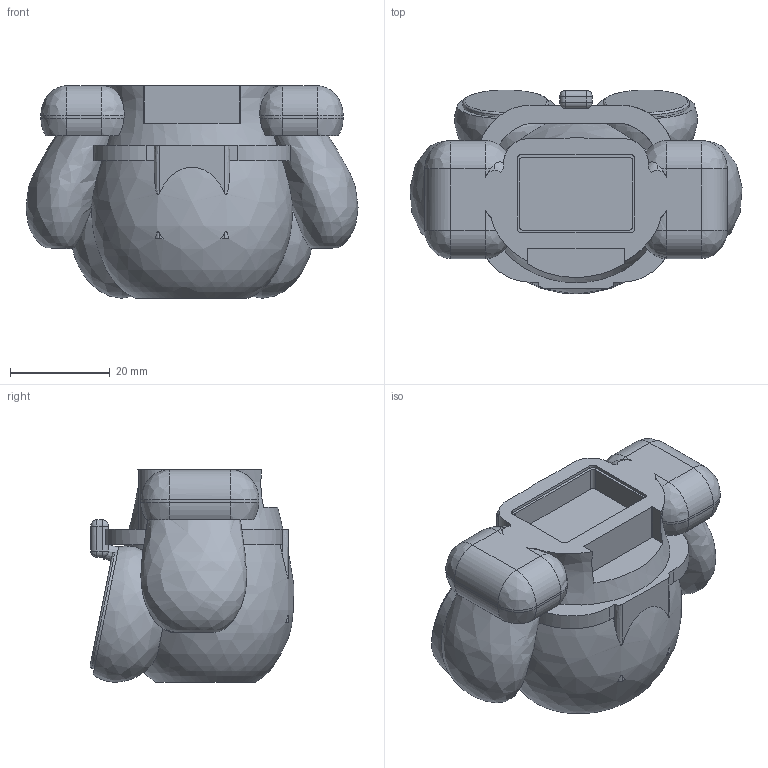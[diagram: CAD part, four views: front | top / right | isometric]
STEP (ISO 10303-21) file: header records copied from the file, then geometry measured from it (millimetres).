
FILE_DESCRIPTION(('Open CASCADE Model'),'2;1');
FILE_NAME('Open CASCADE Shape Model','2026-09-28T14:43:34',('Author'),( 'Open CASCADE'),'Open CASCADE STEP processor 7.8','Open CASCADE 7.8' ,'Unknown');
FILE_SCHEMA(('AUTOMOTIVE_DESIGN { 1 0 10303 214 1 1 1 1 }'));
Length unit declared in the file: millimetre
Products named in the file (1): Open CASCADE STEP translator 7.8 1
Bounding box: 66.43 x 40.82 x 42.5 mm (x, y, z)
Volume: 58114.4 mm3; surface area: 13574.4 mm2
Topology: 1 solids, 1 shells, 183 faces, 486 edges, 294 vertices
Faces by surface type: bspline 151, plane 20, cylinder 12
Entity records: 28184 total; most frequent: CARTESIAN_POINT 21715, B_SPLINE_CURVE_WITH_KNOTS 1069, ORIENTED_EDGE 940, PCURVE 940, DEFINITIONAL_REPRESENTATION 940, EDGE_CURVE 470, SURFACE_CURVE 460, VERTEX_POINT 294
